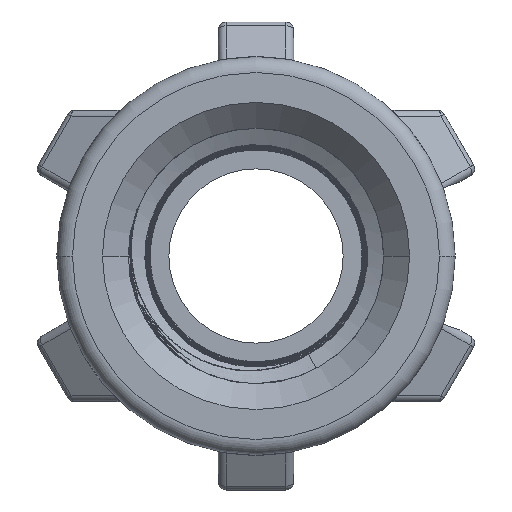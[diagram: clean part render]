
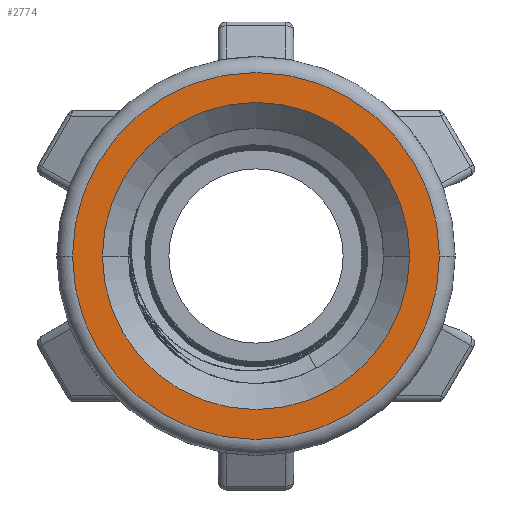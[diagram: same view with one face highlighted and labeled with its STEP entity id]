
A CAD part, front view. The second image highlights one B-rep face of the part: STEP entity #2774.
In plain terms, the highlighted planar face has unit normal (0, -1, 0).
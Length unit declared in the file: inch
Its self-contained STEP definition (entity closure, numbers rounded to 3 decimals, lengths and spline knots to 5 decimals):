
#310=CIRCLE('',#2924,0.38504);
#311=CIRCLE('',#2926,0.46004);
#312=CIRCLE('',#2927,0.46004);
#313=CIRCLE('',#2928,0.38504);
#897=VERTEX_POINT('',#28068);
#898=VERTEX_POINT('',#28070);
#899=VERTEX_POINT('',#28074);
#900=VERTEX_POINT('',#28075);
#1244=EDGE_CURVE('',#897,#898,#310,.F.);
#1245=EDGE_CURVE('',#899,#900,#311,.F.);
#1246=EDGE_CURVE('',#900,#899,#312,.F.);
#1247=EDGE_CURVE('',#898,#897,#313,.T.);
#1864=ORIENTED_EDGE('',*,*,#1245,.T.);
#1865=ORIENTED_EDGE('',*,*,#1246,.T.);
#1866=ORIENTED_EDGE('',*,*,#1244,.T.);
#1867=ORIENTED_EDGE('',*,*,#1247,.T.);
#2388=EDGE_LOOP('',(#1864,#1865));
#2389=EDGE_LOOP('',(#1866,#1867));
#2584=FACE_BOUND('',#2388,.T.);
#2585=FACE_BOUND('',#2389,.T.);
#2774=ADVANCED_FACE('',(#2584,#2585),#29484,.F.);
#2924=AXIS2_PLACEMENT_3D('',#28071,#3238,#3239);
#2925=AXIS2_PLACEMENT_3D('',#28072,#3240,$);
#2926=AXIS2_PLACEMENT_3D('',#28073,#3241,#3242);
#2927=AXIS2_PLACEMENT_3D('',#28076,#3243,#3244);
#2928=AXIS2_PLACEMENT_3D('',#28077,#3245,#3246);
#3238=DIRECTION('',(0.,-1.,0.));
#3239=DIRECTION('',(0.,0.,-0.385));
#3240=DIRECTION('',(0.,1.,0.));
#3241=DIRECTION('',(0.,1.,0.));
#3242=DIRECTION('',(0.,0.,0.46));
#3243=DIRECTION('',(0.,1.,0.));
#3244=DIRECTION('',(0.,0.,0.46));
#3245=DIRECTION('',(0.,1.,0.));
#3246=DIRECTION('',(0.,0.,-0.385));
#28068=CARTESIAN_POINT('',(0.38504,-1.24567,0.));
#28070=CARTESIAN_POINT('',(-0.38504,-1.24567,0.));
#28071=CARTESIAN_POINT('',(0.,-1.24567,0.));
#28072=CARTESIAN_POINT('',(0.,-1.24567,0.));
#28073=CARTESIAN_POINT('',(0.,-1.24567,0.));
#28074=CARTESIAN_POINT('',(0.46004,-1.24567,0.));
#28075=CARTESIAN_POINT('',(-0.46004,-1.24567,0.));
#28076=CARTESIAN_POINT('',(0.,-1.24567,0.));
#28077=CARTESIAN_POINT('',(0.,-1.24567,0.));
#29484=PLANE('',#2925);
